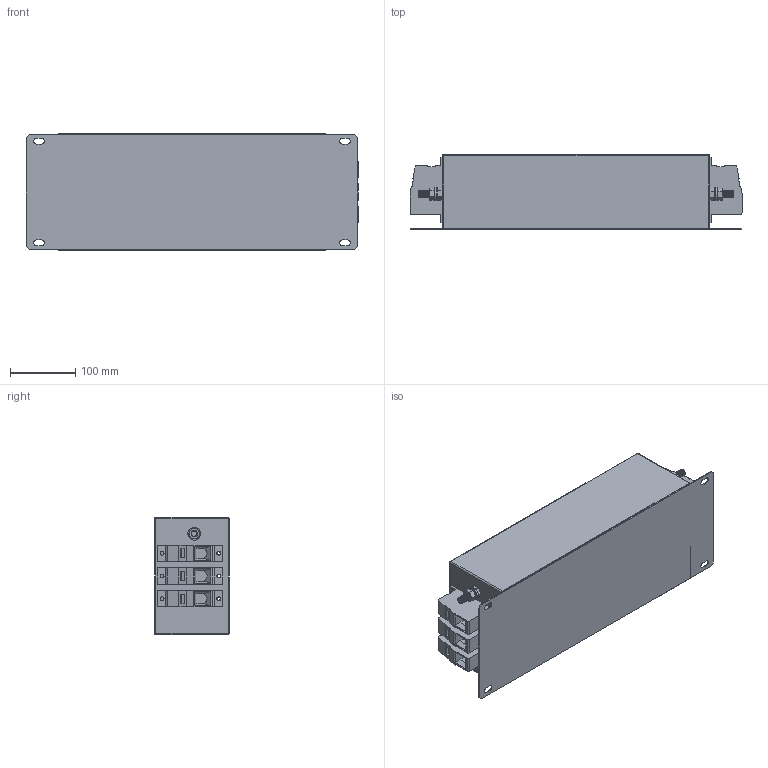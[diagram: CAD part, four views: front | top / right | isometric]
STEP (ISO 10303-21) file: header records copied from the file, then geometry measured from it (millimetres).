
FILE_DESCRIPTION (( 'STEP AP203' ), '1' );
FILE_NAME ('NF-180.STEP', '2022-07-21T11:22:23', ( '' ), ( '' ), 'SwSTEP 2.0', 'SolidWorks 2017', '' );
FILE_SCHEMA (( 'CONFIG_CONTROL_DESIGN' ));
Length unit declared in the file: millimetre
Products named in the file (7): hex nut style 1_am_B18.2.4.1M - Hex nut, Style 1,  M10 x 1.5, with 16mm WAF --D-N; flat washer narrow_am_B18.22M - Plain washer, 10 mm, narrow; hex screw_am_B18.6.7M - M10 x 1.5 x 30 Indented HHMS --30S; HDFK-95; M10x30 Earth post; NF-180; FNG-3 case
Assembly tree (13 placements, depth 3):
  NF-180
    FNG-3 case
    M10x30 Earth post  x2
      flat washer narrow_am_B18.22M - Plain washer, 10 mm, narrow
      hex nut style 1_am_B18.2.4.1M - Hex nut, Style 1,  M10 x 1.5, with 16mm WAF --D-N
      hex screw_am_B18.6.7M - M10 x 1.5 x 30 Indented HHMS --30S
    HDFK-95  x6
Bounding box: 510 x 115 x 180 mm (x, y, z)
Volume: 8943470 mm3; surface area: 477949.3 mm2
Topology: 15 solids, 15 shells, 892 faces, 2264 edges, 1444 vertices
Faces by surface type: plane 478, cylinder 210, cone 200, sphere 4
Entity records: 10327 total; most frequent: CARTESIAN_POINT 1784, DIRECTION 1696, ORIENTED_EDGE 1544, EDGE_CURVE 772, AXIS2_PLACEMENT_3D 638, VERTEX_POINT 486, VECTOR 420, LINE 420
